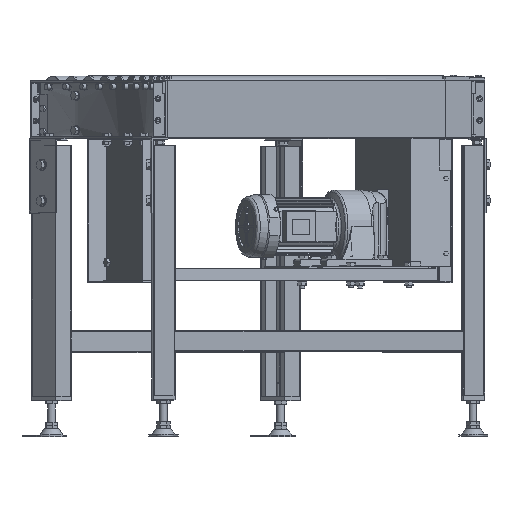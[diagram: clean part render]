
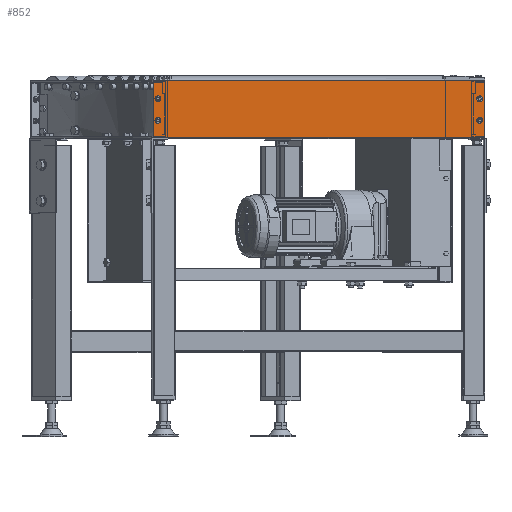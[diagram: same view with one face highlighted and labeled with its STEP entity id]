
A CAD part, top view. The second image highlights one B-rep face of the part: STEP entity #852.
In plain terms, the highlighted planar face has unit normal (0, 0, 1).
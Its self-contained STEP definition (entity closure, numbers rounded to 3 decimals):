
#852=ADVANCED_FACE('',(#3887,#3888,#3889,#3890,#3891),#3886,.F.);
#3886=PLANE('',#30832);
#3887=FACE_OUTER_BOUND('',#30833,.T.);
#3888=FACE_BOUND('',#30834,.T.);
#3889=FACE_BOUND('',#30835,.T.);
#3890=FACE_BOUND('',#30836,.T.);
#3891=FACE_BOUND('',#30837,.T.);
#30829=CARTESIAN_POINT('',(1570.,-140.,1.2));
#30830=DIRECTION('',(0.,0.,-1.));
#30831=DIRECTION('',(-1.,0.,0.));
#30832=AXIS2_PLACEMENT_3D('',#30829,#30830,#30831);
#30833=EDGE_LOOP('',(#45580,#45581,#45582,#45583));
#30834=EDGE_LOOP('',(#45584,#45585));
#30835=EDGE_LOOP('',(#45586,#45587));
#30836=EDGE_LOOP('',(#45588,#45589));
#30837=EDGE_LOOP('',(#45590,#45591));
#45580=ORIENTED_EDGE('',*,*,#59167,.F.);
#45581=ORIENTED_EDGE('',*,*,#59168,.F.);
#45582=ORIENTED_EDGE('',*,*,#59169,.F.);
#45583=ORIENTED_EDGE('',*,*,#59170,.F.);
#45584=ORIENTED_EDGE('',*,*,#59171,.T.);
#45585=ORIENTED_EDGE('',*,*,#59172,.T.);
#45586=ORIENTED_EDGE('',*,*,#59173,.T.);
#45587=ORIENTED_EDGE('',*,*,#59174,.T.);
#45588=ORIENTED_EDGE('',*,*,#59175,.T.);
#45589=ORIENTED_EDGE('',*,*,#59176,.T.);
#45590=ORIENTED_EDGE('',*,*,#59155,.T.);
#45591=ORIENTED_EDGE('',*,*,#59156,.T.);
#59155=EDGE_CURVE('',#67149,#67142,#67150,.T.);
#59156=EDGE_CURVE('',#67142,#67149,#67156,.T.);
#59167=EDGE_CURVE('',#67226,#67227,#67228,.T.);
#59168=EDGE_CURVE('',#67234,#67226,#67235,.T.);
#59169=EDGE_CURVE('',#67241,#67234,#67242,.T.);
#59170=EDGE_CURVE('',#67227,#67241,#67248,.T.);
#59171=EDGE_CURVE('',#67254,#67255,#67256,.T.);
#59172=EDGE_CURVE('',#67255,#67254,#67262,.T.);
#59173=EDGE_CURVE('',#67268,#67269,#67270,.T.);
#59174=EDGE_CURVE('',#67269,#67268,#67276,.T.);
#59175=EDGE_CURVE('',#67282,#67283,#67284,.T.);
#59176=EDGE_CURVE('',#67283,#67282,#67290,.T.);
#67142=VERTEX_POINT('',#115266);
#67149=VERTEX_POINT('',#115269);
#67150=CIRCLE('',#115273,3.);
#67156=CIRCLE('',#115277,3.);
#67226=VERTEX_POINT('',#115312);
#67227=VERTEX_POINT('',#115313);
#67228=LINE('',#115314,#115315);
#67234=VERTEX_POINT('',#115317);
#67235=LINE('',#115318,#115319);
#67241=VERTEX_POINT('',#115321);
#67242=LINE('',#115322,#115323);
#67248=LINE('',#115325,#115326);
#67254=VERTEX_POINT('',#115328);
#67255=VERTEX_POINT('',#115329);
#67256=CIRCLE('',#115333,3.);
#67262=CIRCLE('',#115337,3.);
#67268=VERTEX_POINT('',#115338);
#67269=VERTEX_POINT('',#115339);
#67270=CIRCLE('',#115343,3.);
#67276=CIRCLE('',#115347,3.);
#67282=VERTEX_POINT('',#115348);
#67283=VERTEX_POINT('',#115349);
#67284=CIRCLE('',#115353,3.);
#67290=CIRCLE('',#115357,3.);
#115266=CARTESIAN_POINT('',(1552.7,-48.5,1.2));
#115269=CARTESIAN_POINT('',(1546.7,-48.5,1.2));
#115270=CARTESIAN_POINT('',(1549.7,-48.5,1.2));
#115271=DIRECTION('',(0.,0.,-1.));
#115272=DIRECTION('',(-1.,0.,0.));
#115273=AXIS2_PLACEMENT_3D('',#115270,#115271,#115272);
#115274=CARTESIAN_POINT('',(1549.7,-48.5,1.2));
#115275=DIRECTION('',(0.,0.,-1.));
#115276=DIRECTION('',(-1.,0.,0.));
#115277=AXIS2_PLACEMENT_3D('',#115274,#115275,#115276);
#115312=CARTESIAN_POINT('',(1560.,-130.,1.2));
#115313=CARTESIAN_POINT('',(870.,-130.,1.2));
#115314=CARTESIAN_POINT('',(1560.,-130.,1.2));
#115315=VECTOR('',#115316,690.);
#115316=DIRECTION('',(-1.,0.,0.));
#115317=CARTESIAN_POINT('',(1560.,-10.,1.2));
#115318=CARTESIAN_POINT('',(1560.,-10.,1.2));
#115319=VECTOR('',#115320,120.);
#115320=DIRECTION('',(0.,-1.,0.));
#115321=CARTESIAN_POINT('',(870.,-10.,1.2));
#115322=CARTESIAN_POINT('',(870.,-10.,1.2));
#115323=VECTOR('',#115324,690.);
#115324=DIRECTION('',(1.,0.,0.));
#115325=CARTESIAN_POINT('',(870.,-130.,1.2));
#115326=VECTOR('',#115327,120.);
#115327=DIRECTION('',(0.,1.,0.));
#115328=CARTESIAN_POINT('',(1546.7,-93.5,1.2));
#115329=CARTESIAN_POINT('',(1552.7,-93.5,1.2));
#115330=CARTESIAN_POINT('',(1549.7,-93.5,1.2));
#115331=DIRECTION('',(0.,0.,-1.));
#115332=DIRECTION('',(-1.,0.,0.));
#115333=AXIS2_PLACEMENT_3D('',#115330,#115331,#115332);
#115334=CARTESIAN_POINT('',(1549.7,-93.5,1.2));
#115335=DIRECTION('',(0.,0.,-1.));
#115336=DIRECTION('',(-1.,0.,0.));
#115337=AXIS2_PLACEMENT_3D('',#115334,#115335,#115336);
#115338=CARTESIAN_POINT('',(877.306,-48.5,1.2));
#115339=CARTESIAN_POINT('',(883.306,-48.5,1.2));
#115340=CARTESIAN_POINT('',(880.306,-48.5,1.2));
#115341=DIRECTION('',(0.,0.,-1.));
#115342=DIRECTION('',(-1.,0.,0.));
#115343=AXIS2_PLACEMENT_3D('',#115340,#115341,#115342);
#115344=CARTESIAN_POINT('',(880.306,-48.5,1.2));
#115345=DIRECTION('',(0.,0.,-1.));
#115346=DIRECTION('',(-1.,0.,0.));
#115347=AXIS2_PLACEMENT_3D('',#115344,#115345,#115346);
#115348=CARTESIAN_POINT('',(877.306,-93.5,1.2));
#115349=CARTESIAN_POINT('',(883.306,-93.5,1.2));
#115350=CARTESIAN_POINT('',(880.306,-93.5,1.2));
#115351=DIRECTION('',(0.,0.,-1.));
#115352=DIRECTION('',(-1.,0.,0.));
#115353=AXIS2_PLACEMENT_3D('',#115350,#115351,#115352);
#115354=CARTESIAN_POINT('',(880.306,-93.5,1.2));
#115355=DIRECTION('',(0.,0.,-1.));
#115356=DIRECTION('',(-1.,0.,0.));
#115357=AXIS2_PLACEMENT_3D('',#115354,#115355,#115356);
